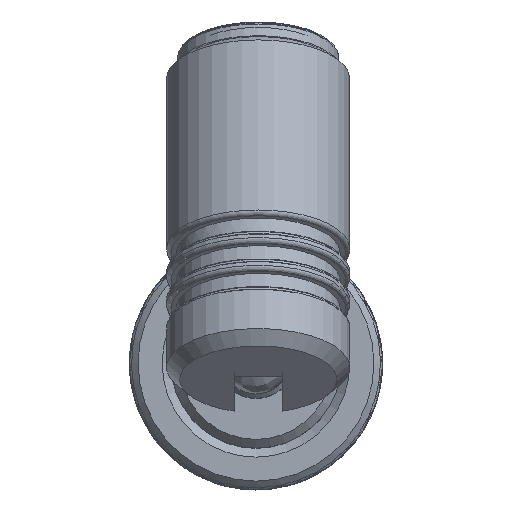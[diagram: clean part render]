
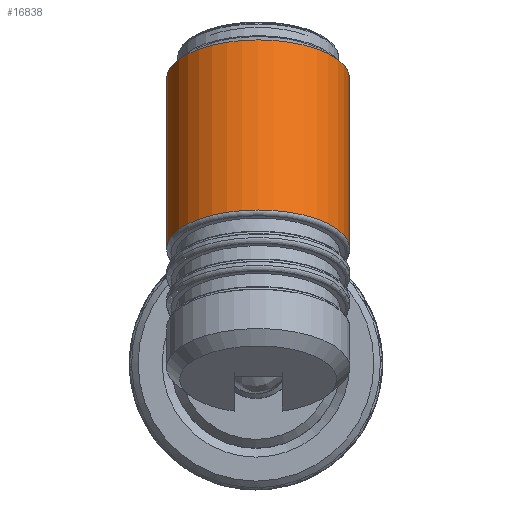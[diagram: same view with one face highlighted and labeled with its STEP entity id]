
A CAD part, top view. The second image highlights one B-rep face of the part: STEP entity #16838.
In plain terms, the highlighted cylindrical face has radius 10.5 mm (diameter 21 mm), a full revolution.
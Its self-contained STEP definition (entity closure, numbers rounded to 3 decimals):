
#3661=FACE_OUTER_BOUND('',#4989,.T.);
#4989=EDGE_LOOP('',(#10999,#11000,#11001,#11002,#11003));
#6334=LINE('',#19962,#6448);
#6448=VECTOR('',#18807,10.5);
#6565=CIRCLE('',#18258,10.5);
#6566=CIRCLE('',#18260,10.5);
#6567=CIRCLE('',#18261,10.5);
#6719=VERTEX_POINT('',#19957);
#6720=VERTEX_POINT('',#19961);
#6721=VERTEX_POINT('',#19963);
#8206=EDGE_CURVE('',#6719,#6719,#6565,.T.);
#8207=EDGE_CURVE('',#6719,#6720,#6334,.T.);
#8208=EDGE_CURVE('',#6721,#6720,#6566,.T.);
#8209=EDGE_CURVE('',#6720,#6721,#6567,.T.);
#10999=ORIENTED_EDGE('',*,*,#8206,.F.);
#11000=ORIENTED_EDGE('',*,*,#8207,.T.);
#11001=ORIENTED_EDGE('',*,*,#8208,.F.);
#11002=ORIENTED_EDGE('',*,*,#8209,.F.);
#11003=ORIENTED_EDGE('',*,*,#8207,.F.);
#16547=CYLINDRICAL_SURFACE('',#18259,10.5);
#16838=ADVANCED_FACE('',(#3661),#16547,.T.);
#18258=AXIS2_PLACEMENT_3D('',#19959,#18803,#18804);
#18259=AXIS2_PLACEMENT_3D('',#19960,#18805,#18806);
#18260=AXIS2_PLACEMENT_3D('',#19964,#18808,#18809);
#18261=AXIS2_PLACEMENT_3D('',#19965,#18810,#18811);
#18803=DIRECTION('center_axis',(0.,1.,0.));
#18804=DIRECTION('ref_axis',(1.,0.,0.));
#18805=DIRECTION('center_axis',(0.,1.,0.));
#18806=DIRECTION('ref_axis',(1.,0.,0.));
#18807=DIRECTION('',(0.,-1.,0.));
#18808=DIRECTION('center_axis',(0.,-1.,0.));
#18809=DIRECTION('ref_axis',(1.,0.,0.));
#18810=DIRECTION('center_axis',(0.,-1.,0.));
#18811=DIRECTION('ref_axis',(1.,0.,0.));
#19957=CARTESIAN_POINT('',(-10.5,38.,0.));
#19959=CARTESIAN_POINT('Origin',(0.,38.,0.));
#19960=CARTESIAN_POINT('Origin',(0.,0.,0.));
#19961=CARTESIAN_POINT('',(-10.5,16.5,0.));
#19962=CARTESIAN_POINT('',(-10.5,0.,0.));
#19963=CARTESIAN_POINT('',(0.,16.5,-10.5));
#19964=CARTESIAN_POINT('Origin',(0.,16.5,0.));
#19965=CARTESIAN_POINT('Origin',(0.,16.5,0.));
